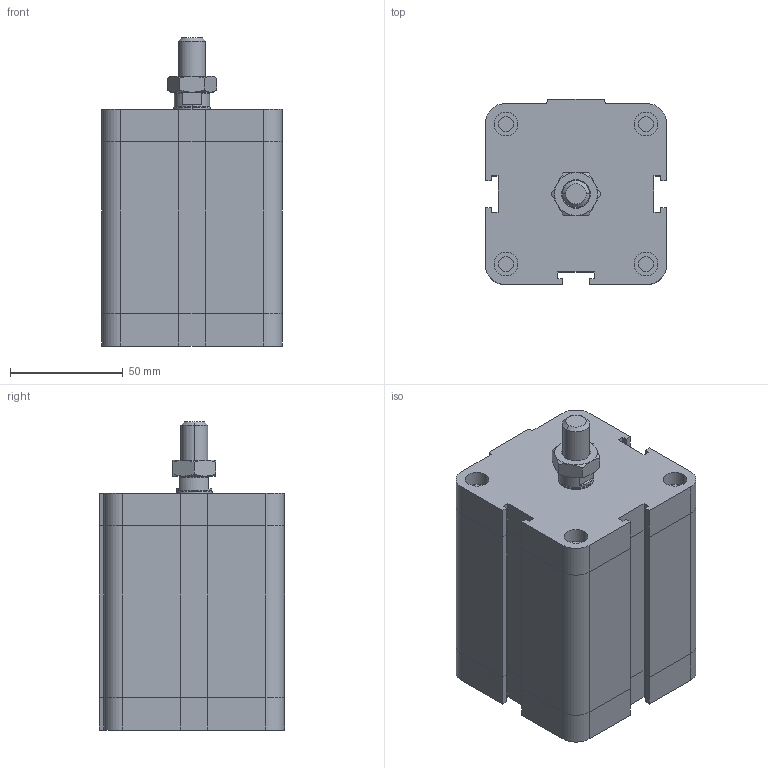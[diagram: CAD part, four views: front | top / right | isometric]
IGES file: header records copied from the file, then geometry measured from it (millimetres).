
Global section: file name: No Iges File Name specified; native system: Autodesk Inventor 2009; preprocessor: AutoDesk Inventor Iges Exporter R2009; author: rivolro1; date: 20081219.162507; units: millimetre
Bounding box: 80 x 82 x 136.5 mm (x, y, z)
Volume: 642902 mm3; surface area: 65429.7 mm2
Topology: 3 solids, 3 shells, 216 faces, 472 edges, 282 vertices
Faces by surface type: plane 121, bspline 37, cylinder 20, cone 20, revolution 18
